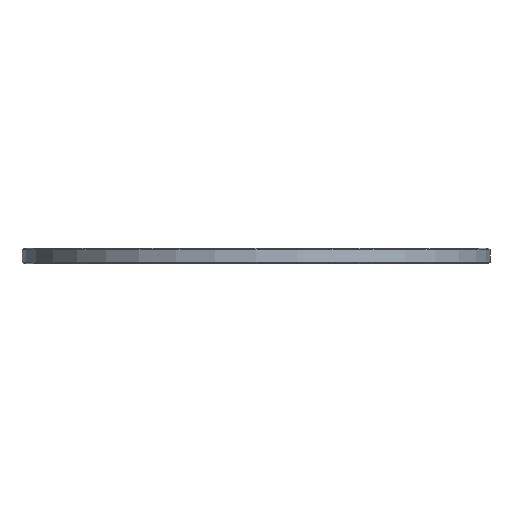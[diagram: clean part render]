
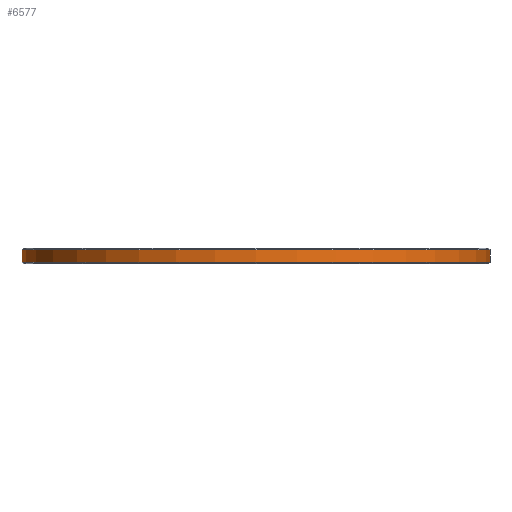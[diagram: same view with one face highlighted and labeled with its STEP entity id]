
A CAD part, front view. The second image highlights one B-rep face of the part: STEP entity #6577.
In plain terms, the highlighted cylindrical face has radius 46.875 mm (diameter 93.75 mm), a full revolution.
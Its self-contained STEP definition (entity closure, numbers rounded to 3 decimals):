
#80=CYLINDRICAL_SURFACE('',#7005,46.875);
#672=FACE_OUTER_BOUND('',#1063,.T.);
#1063=EDGE_LOOP('',(#6063,#6064,#6065,#6066));
#1172=CIRCLE('',#7004,46.875);
#1173=CIRCLE('',#7006,46.875);
#1986=LINE('',#10508,#2813);
#2813=VECTOR('',#8611,46.875);
#3418=VERTEX_POINT('',#10502);
#3419=VERTEX_POINT('',#10506);
#4303=EDGE_CURVE('',#3418,#3418,#1172,.T.);
#4305=EDGE_CURVE('',#3419,#3419,#1173,.T.);
#4306=EDGE_CURVE('',#3419,#3418,#1986,.T.);
#6063=ORIENTED_EDGE('',*,*,#4305,.F.);
#6064=ORIENTED_EDGE('',*,*,#4306,.T.);
#6065=ORIENTED_EDGE('',*,*,#4303,.F.);
#6066=ORIENTED_EDGE('',*,*,#4306,.F.);
#6577=ADVANCED_FACE('',(#672),#80,.T.);
#7004=AXIS2_PLACEMENT_3D('',#10503,#8604,#8605);
#7005=AXIS2_PLACEMENT_3D('',#10505,#8607,#8608);
#7006=AXIS2_PLACEMENT_3D('',#10507,#8609,#8610);
#8604=DIRECTION('center_axis',(0.,0.,-1.));
#8605=DIRECTION('ref_axis',(1.,0.,0.));
#8607=DIRECTION('center_axis',(0.,0.,1.));
#8608=DIRECTION('ref_axis',(1.,0.,0.));
#8609=DIRECTION('center_axis',(0.,0.,1.));
#8610=DIRECTION('ref_axis',(1.,0.,0.));
#8611=DIRECTION('',(0.,0.,-1.));
#10502=CARTESIAN_POINT('',(-46.875,0.,0.3));
#10503=CARTESIAN_POINT('Origin',(0.,0.,0.3));
#10505=CARTESIAN_POINT('Origin',(0.,0.,0.));
#10506=CARTESIAN_POINT('',(-46.875,0.,2.825));
#10507=CARTESIAN_POINT('Origin',(0.,0.,2.825));
#10508=CARTESIAN_POINT('',(-46.875,0.,0.));
